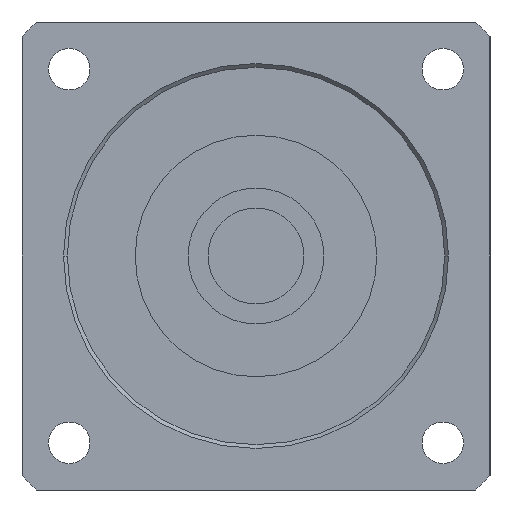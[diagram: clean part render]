
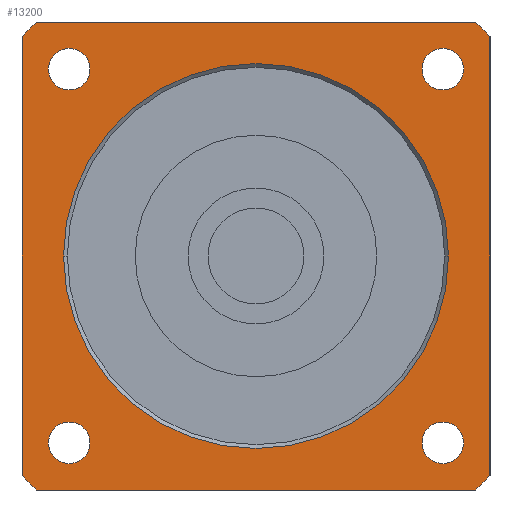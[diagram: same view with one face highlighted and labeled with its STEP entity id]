
A CAD part, left-side view. The second image highlights one B-rep face of the part: STEP entity #13200.
In plain terms, the highlighted planar face has unit normal (-1, 0, 0) as drawn and (0, 0, -1) by its records, which use the part's own axes.
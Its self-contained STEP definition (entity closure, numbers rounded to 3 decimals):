
#8640=CARTESIAN_POINT('',(-24.749,21.999,-40.5));
#8650=VERTEX_POINT('',#8640);
#8830=CARTESIAN_POINT('',(-24.749,27.499,-40.5));
#8840=VERTEX_POINT('',#8830);
#8870=CARTESIAN_POINT('',(-24.749,24.749,-40.5));
#8880=DIRECTION('',(0.,0.,1.));
#8890=DIRECTION('',(0.,-1.,0.));
#8900=AXIS2_PLACEMENT_3D('',#8870,#8880,#8890);
#8910=CIRCLE('',#8900,2.75);
#8920=EDGE_CURVE('',#8840,#8650,#8910,.T.);
#9060=CARTESIAN_POINT('',(24.749,-21.999,-40.5));
#9070=VERTEX_POINT('',#9060);
#9250=CARTESIAN_POINT('',(24.749,-27.499,-40.5));
#9260=VERTEX_POINT('',#9250);
#9290=CARTESIAN_POINT('',(24.749,-24.749,-40.5));
#9300=DIRECTION('',(0.,0.,1.));
#9310=DIRECTION('',(0.,1.,0.));
#9320=AXIS2_PLACEMENT_3D('',#9290,#9300,#9310);
#9330=CIRCLE('',#9320,2.75);
#9340=EDGE_CURVE('',#9260,#9070,#9330,.T.);
#11680=CARTESIAN_POINT('',(-25.5,0.,-40.5));
#11690=VERTEX_POINT('',#11680);
#11720=CARTESIAN_POINT('',(0.,0.,
-40.5));
#11730=DIRECTION('',(0.,0.,-1.));
#11740=DIRECTION('',(0.,-1.,0.));
#11750=AXIS2_PLACEMENT_3D('',#11720,#11730,#11740);
#11760=CIRCLE('',#11750,25.5);
#11770=CARTESIAN_POINT('',(0.,-25.5,-40.5));
#11780=VERTEX_POINT('',#11770);
#11790=EDGE_CURVE('',#11780,#11690,#11760,.T.);
#11810=CARTESIAN_POINT('',(25.5,0.,-40.5));
#11820=VERTEX_POINT('',#11810);
#11830=EDGE_CURVE('',#11820,#11780,#11760,.T.);
#11950=CARTESIAN_POINT('',(0.,-42.5,-40.5));
#11960=DIRECTION('',(0.,0.,-1.));
#11970=DIRECTION('',(0.,-1.,0.));
#11980=AXIS2_PLACEMENT_3D('',#11950,#11960,#11970);
#11990=PLANE('',#11980);
#12000=ORIENTED_EDGE('',*,*,#11790,.F.);
#12010=EDGE_CURVE('',#11690,#11820,#11760,.T.);
#12020=ORIENTED_EDGE('',*,*,#12010,.F.);
#12030=ORIENTED_EDGE('',*,*,#11830,.F.);
#12040=EDGE_LOOP('',(#12030,#12020,#12000));
#12050=FACE_BOUND('',#12040,.T.);
#12060=CARTESIAN_POINT('',(24.749,24.749,-40.5));
#12070=DIRECTION('',(0.,0.,1.));
#12080=DIRECTION('',(-1.,0.,0.));
#12090=AXIS2_PLACEMENT_3D('',#12060,#12070,#12080);
#12100=CIRCLE('',#12090,2.75);
#12110=CARTESIAN_POINT('',(21.999,24.749,-40.5));
#12120=VERTEX_POINT('',#12110);
#12130=CARTESIAN_POINT('',(27.499,24.749,-40.5));
#12140=VERTEX_POINT('',#12130);
#12150=EDGE_CURVE('',#12120,#12140,#12100,.T.);
#12160=ORIENTED_EDGE('',*,*,#12150,.T.);
#12170=EDGE_CURVE('',#12140,#12120,#12100,.T.);
#12180=ORIENTED_EDGE('',*,*,#12170,.T.);
#12190=EDGE_LOOP('',(#12180,#12160));
#12200=FACE_BOUND('',#12190,.T.);
#12210=CARTESIAN_POINT('',(-24.749,-24.749,-40.5));
#12220=DIRECTION('',(0.,0.,1.));
#12230=DIRECTION('',(1.,0.,0.));
#12240=AXIS2_PLACEMENT_3D('',#12210,#12220,#12230);
#12250=CIRCLE('',#12240,2.75);
#12260=CARTESIAN_POINT('',(-24.749,-21.999,-40.5));
#12270=VERTEX_POINT('',#12260);
#12280=CARTESIAN_POINT('',(-24.749,-27.499,-40.5));
#12290=VERTEX_POINT('',#12280);
#12300=EDGE_CURVE('',#12270,#12290,#12250,.T.);
#12310=ORIENTED_EDGE('',*,*,#12300,.T.);
#12320=CARTESIAN_POINT('',(-21.999,-24.749,-40.5));
#12330=VERTEX_POINT('',#12320);
#12340=EDGE_CURVE('',#12330,#12270,#12250,.T.);
#12350=ORIENTED_EDGE('',*,*,#12340,.T.);
#12360=EDGE_CURVE('',#12290,#12330,#12250,.T.);
#12370=ORIENTED_EDGE('',*,*,#12360,.T.);
#12380=EDGE_LOOP('',(#12370,#12350,#12310));
#12390=FACE_BOUND('',#12380,.T.);
#12400=CARTESIAN_POINT('',(-31.,-42.5,-40.5));
#12410=DIRECTION('',(0.,1.,0.));
#12420=VECTOR('',#12410,1000.);
#12430=LINE('',#12400,#12420);
#12440=CARTESIAN_POINT('',(-31.,-29.073,-40.5));
#12450=VERTEX_POINT('',#12440);
#12460=CARTESIAN_POINT('',(-31.,29.073,-40.5));
#12470=VERTEX_POINT('',#12460);
#12480=EDGE_CURVE('',#12450,#12470,#12430,.T.);
#12490=ORIENTED_EDGE('',*,*,#12480,.T.);
#12500=CARTESIAN_POINT('',(0.,0.,
-40.5));
#12510=DIRECTION('',(0.,0.,1.));
#12520=DIRECTION('',(0.,1.,0.));
#12530=AXIS2_PLACEMENT_3D('',#12500,#12510,#12520);
#12540=CIRCLE('',#12530,42.5);
#12550=CARTESIAN_POINT('',(-29.073,-31.,-40.5));
#12560=VERTEX_POINT('',#12550);
#12570=EDGE_CURVE('',#12450,#12560,#12540,.T.);
#12580=ORIENTED_EDGE('',*,*,#12570,.F.);
#12590=CARTESIAN_POINT('',(0.,-31.,-40.5));
#12600=DIRECTION('',(-1.,0.,0.));
#12610=VECTOR('',#12600,1000.);
#12620=LINE('',#12590,#12610);
#12630=CARTESIAN_POINT('',(29.073,-31.,-40.5));
#12640=VERTEX_POINT('',#12630);
#12650=EDGE_CURVE('',#12640,#12560,#12620,.T.);
#12660=ORIENTED_EDGE('',*,*,#12650,.T.);
#12670=CARTESIAN_POINT('',(0.,0.,
-40.5));
#12680=DIRECTION('',(0.,0.,1.));
#12690=DIRECTION('',(0.,1.,0.));
#12700=AXIS2_PLACEMENT_3D('',#12670,#12680,#12690);
#12710=CIRCLE('',#12700,42.5);
#12720=CARTESIAN_POINT('',(31.,-29.073,-40.5));
#12730=VERTEX_POINT('',#12720);
#12740=EDGE_CURVE('',#12640,#12730,#12710,.T.);
#12750=ORIENTED_EDGE('',*,*,#12740,.F.);
#12760=CARTESIAN_POINT('',(31.,-42.5,-40.5));
#12770=DIRECTION('',(0.,-1.,0.));
#12780=VECTOR('',#12770,1000.);
#12790=LINE('',#12760,#12780);
#12800=CARTESIAN_POINT('',(31.,29.073,-40.5));
#12810=VERTEX_POINT('',#12800);
#12820=EDGE_CURVE('',#12810,#12730,#12790,.T.);
#12830=ORIENTED_EDGE('',*,*,#12820,.T.);
#12840=CARTESIAN_POINT('',(0.,0.,
-40.5));
#12850=DIRECTION('',(0.,0.,1.));
#12860=DIRECTION('',(0.,1.,0.));
#12870=AXIS2_PLACEMENT_3D('',#12840,#12850,#12860);
#12880=CIRCLE('',#12870,42.5);
#12890=CARTESIAN_POINT('',(29.073,31.,-40.5));
#12900=VERTEX_POINT('',#12890);
#12910=EDGE_CURVE('',#12810,#12900,#12880,.T.);
#12920=ORIENTED_EDGE('',*,*,#12910,.F.);
#12930=CARTESIAN_POINT('',(0.,31.,-40.5));
#12940=DIRECTION('',(1.,0.,0.));
#12950=VECTOR('',#12940,1000.);
#12960=LINE('',#12930,#12950);
#12970=CARTESIAN_POINT('',(-29.073,31.,-40.5));
#12980=VERTEX_POINT('',#12970);
#12990=EDGE_CURVE('',#12980,#12900,#12960,.T.);
#13000=ORIENTED_EDGE('',*,*,#12990,.T.);
#13010=CARTESIAN_POINT('',(0.,0.,
-40.5));
#13020=DIRECTION('',(0.,0.,1.));
#13030=DIRECTION('',(0.,1.,0.));
#13040=AXIS2_PLACEMENT_3D('',#13010,#13020,#13030);
#13050=CIRCLE('',#13040,42.5);
#13060=EDGE_CURVE('',#12980,#12470,#13050,.T.);
#13070=ORIENTED_EDGE('',*,*,#13060,.F.);
#13080=EDGE_LOOP('',(#13070,#13000,#12920,#12830,#12750,#12660,#12580,
#12490));
#13090=FACE_OUTER_BOUND('',#13080,.T.);
#13100=EDGE_CURVE('',#8650,#8840,#8910,.T.);
#13110=ORIENTED_EDGE('',*,*,#13100,.T.);
#13120=ORIENTED_EDGE('',*,*,#8920,.T.);
#13130=EDGE_LOOP('',(#13120,#13110));
#13140=FACE_BOUND('',#13130,.T.);
#13150=EDGE_CURVE('',#9070,#9260,#9330,.T.);
#13160=ORIENTED_EDGE('',*,*,#13150,.T.);
#13170=ORIENTED_EDGE('',*,*,#9340,.T.);
#13180=EDGE_LOOP('',(#13170,#13160));
#13190=FACE_BOUND('',#13180,.T.);
#13200=ADVANCED_FACE('',(#12050,#12200,#12390,#13090,#13140,#13190),
#11990,.T.);
